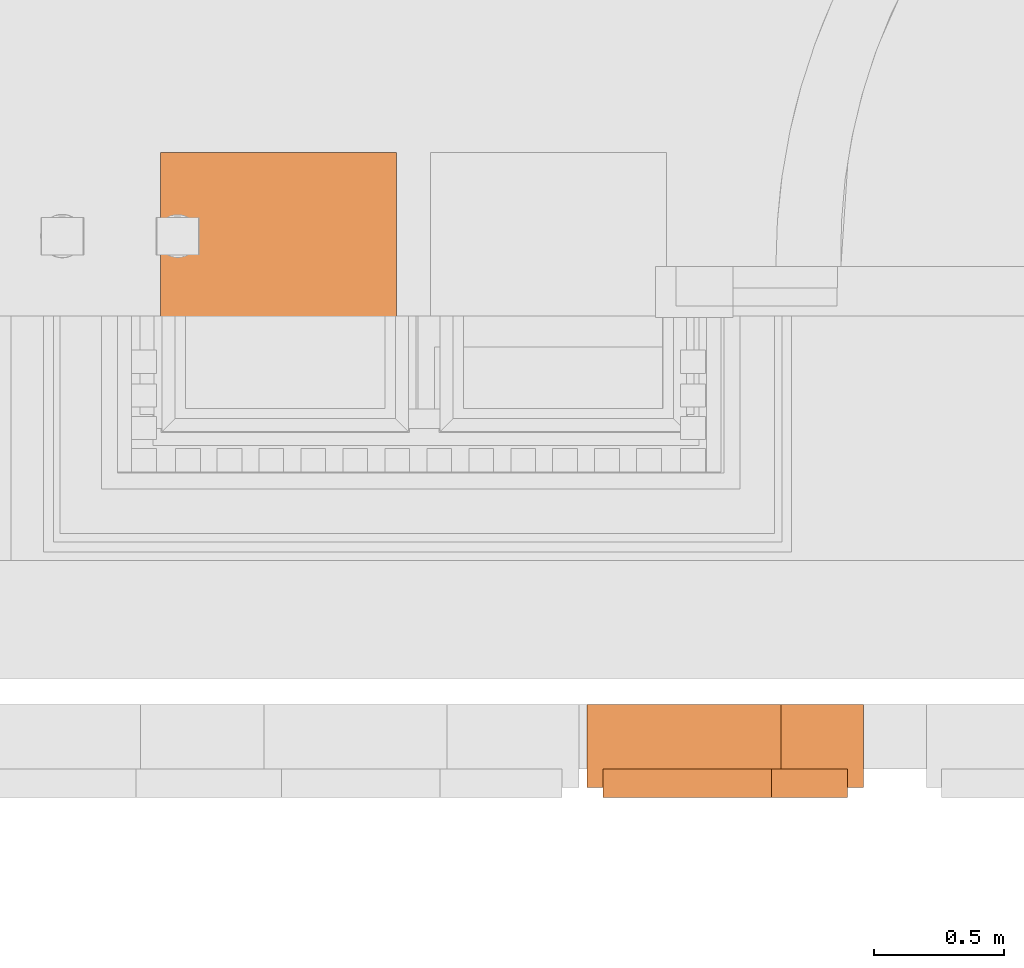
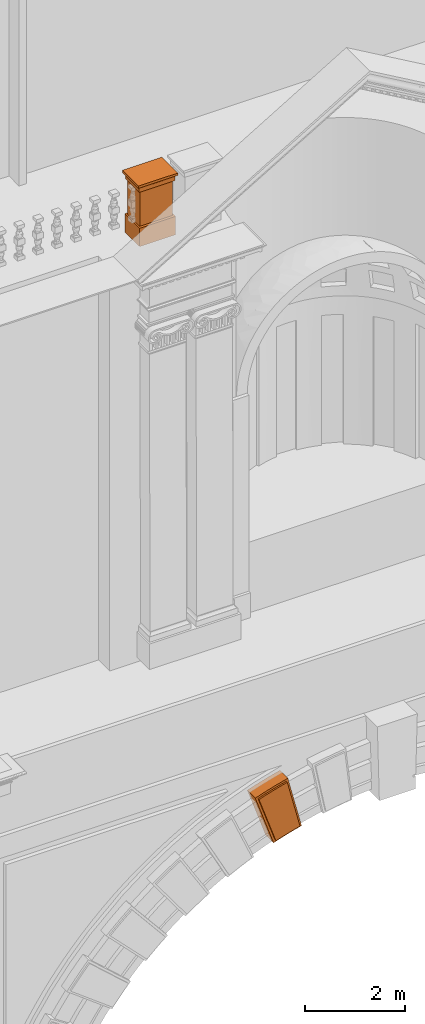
# One storey, part 7 of 44: 3 proxies.
"""IFC2X3 building model written with IfcOpenShell, lengths in metres."""

from ifc_helpers import new_model, entity, si_unit, converted_unit, derived_unit, direction, frame, frame_2d, origin, place, context, subcontext, project, spatial, polyline, circle_curve, parameter, trimmed, segment, composite_curve, outline, extrude, faceted_brep, source, transform, mapped, material, type_object, type_shapes, element, save


model = new_model("IFC2X3")

# Units and contexts
model_context = context("Model", 3, precision=1e-05, world=origin(), true_north=direction((6.12303176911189e-17, 1.0)))
body_context = subcontext(model_context, "Body", "Model", "MODEL_VIEW")
ifc_project = project(units=[si_unit("LENGTHUNIT", "METRE"), si_unit("AREAUNIT", "SQUARE_METRE"), si_unit("VOLUMEUNIT", "CUBIC_METRE"), converted_unit("PLANEANGLEUNIT", "DEGREE", entity("IfcRatioMeasure", 0.0174532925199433), si_unit("PLANEANGLEUNIT", "RADIAN"), dimensions=[0, 0, 0, 0, 0, 0, 0]), si_unit("MASSUNIT", "GRAM", prefix="KILO"), derived_unit("MASSDENSITYUNIT", [(si_unit("MASSUNIT", "GRAM", prefix="KILO"), 1), (si_unit("LENGTHUNIT", "METRE"), -3)]), si_unit("TIMEUNIT", "SECOND"), si_unit("FREQUENCYUNIT", "HERTZ"), si_unit("THERMODYNAMICTEMPERATUREUNIT", "DEGREE_CELSIUS"), derived_unit("THERMALTRANSMITTANCEUNIT", [(si_unit("MASSUNIT", "GRAM", prefix="KILO"), 1), (si_unit("THERMODYNAMICTEMPERATUREUNIT", "KELVIN"), -1), (si_unit("TIMEUNIT", "SECOND"), -3)]), derived_unit("VOLUMETRICFLOWRATEUNIT", [(si_unit("LENGTHUNIT", "METRE"), 3), (si_unit("TIMEUNIT", "SECOND"), -1)]), si_unit("ELECTRICCURRENTUNIT", "AMPERE"), si_unit("ELECTRICVOLTAGEUNIT", "VOLT"), si_unit("POWERUNIT", "WATT"), si_unit("FORCEUNIT", "NEWTON", prefix="KILO"), si_unit("ILLUMINANCEUNIT", "LUX"), si_unit("LUMINOUSFLUXUNIT", "LUMEN"), si_unit("LUMINOUSINTENSITYUNIT", "CANDELA"), derived_unit("USERDEFINED", [(si_unit("MASSUNIT", "GRAM", prefix="KILO"), -1), (si_unit("LENGTHUNIT", "METRE"), -2), (si_unit("TIMEUNIT", "SECOND"), 3), (si_unit("LUMINOUSFLUXUNIT", "LUMEN"), 1)]), derived_unit("LINEARVELOCITYUNIT", [(si_unit("LENGTHUNIT", "METRE"), 1), (si_unit("TIMEUNIT", "SECOND"), -1)]), si_unit("PRESSUREUNIT", "PASCAL"), derived_unit("USERDEFINED", [(si_unit("LENGTHUNIT", "METRE"), -2), (si_unit("MASSUNIT", "GRAM", prefix="KILO"), 1), (si_unit("TIMEUNIT", "SECOND"), -2)])], contexts=[model_context])

# Site, building, storey
site_placement = place(None, origin())
site = spatial("IfcSite", under=ifc_project, at=site_placement, Name="Default", CompositionType="ELEMENT")
building_placement = place(site_placement, origin())
building = spatial("IfcBuilding", under=site, at=building_placement, CompositionType="ELEMENT")
storey_placement = place(building_placement, origin())
storey = spatial("IfcBuildingStorey", under=building, at=storey_placement, Name="Livello 1", CompositionType="ELEMENT", Elevation=0.0)

# Proxies
ifc_material = material(Name="Piperno")
building_element_proxy_type = type_object("IfcBuildingElementProxyType", Name="Piedistallo_balaustra terrazzo", PredefinedType="NOTDEFINED", material=ifc_material)
shared_shape = source(origin(), body_context, "Body", "Brep", [
    faceted_brep([(0.046908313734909, 0.593560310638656, 1.29866715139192), (0.046908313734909, 0.593560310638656, 1.3744703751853), (0.456758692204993, 0.593560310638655, 1.3744703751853), (0.866608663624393, 0.593560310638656, 1.3744703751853), (0.866608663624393, 0.593560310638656, 1.29866715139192), (0.0819082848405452, 0.558560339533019, 1.29871212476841), (0.831608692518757, 0.558560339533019, 1.29871212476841), (0.0819082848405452, 0.558560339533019, 1.44170839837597), (0.831608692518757, 0.558560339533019, 1.44170839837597), (0.0453685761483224, 0.595100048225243, 1.39169607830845), (0.547469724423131, 0.594325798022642, 1.38754596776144), (0.456758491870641, 0.617051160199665, 1.4288318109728), (0.501016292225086, 0.605457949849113, 1.41575397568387), (0.0299184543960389, 0.610550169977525, 1.42233581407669), (0.896533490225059, 0.623485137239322, 1.43381545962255), (0.883598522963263, 0.610550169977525, 1.42233581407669), (0.0395835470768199, 0.600885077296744, 1.40799420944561), (0.456758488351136, 0.597554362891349, 1.40023980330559), (0.477394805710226, 0.627932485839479, 1.43661435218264), (0.016983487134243, 0.623485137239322, 1.43381545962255), (0.622237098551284, 0.638873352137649, 1.44170839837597), (0.911921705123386, 0.638873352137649, 1.44170839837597), (0.332552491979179, 0.638873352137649, 1.44170839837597), (0.0015952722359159, 0.638873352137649, 1.44170839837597), (0.873933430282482, 0.600885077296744, 1.40799420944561), (0.86814840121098, 0.595100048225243, 1.39169607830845), (0.866608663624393, 0.0469083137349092, 1.3744703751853), (0.866608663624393, 0.0469083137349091, 1.29866715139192), (0.831608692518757, 0.0819082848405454, 1.29871212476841), (0.831608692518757, 0.0819082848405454, 1.44170839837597), (0.889974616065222, 0.32023431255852, 1.42872239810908), (0.90037284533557, 0.325542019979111, 1.43625922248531), (0.911921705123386, 0.291279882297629, 1.44170839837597), (0.911921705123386, 0.00159527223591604, 1.44170839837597), (0.883598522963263, 0.02991845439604, 1.42233581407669), (0.896533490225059, 0.0169834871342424, 1.43381545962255), (0.873933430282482, 0.0395835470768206, 1.40799420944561), (0.86814840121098, 0.0453685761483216, 1.39169607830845), (0.456758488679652, 0.0469083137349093, 1.3744703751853), (0.046908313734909, 0.0469083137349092, 1.3744703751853), (0.046908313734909, 0.0469083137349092, 1.29866715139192), (0.0819082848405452, 0.0819082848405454, 1.29871212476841), (0.0819082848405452, 0.0819082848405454, 1.44170839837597), (0.366047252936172, 0.0461428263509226, 1.38754596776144), (0.456758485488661, 0.0234174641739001, 1.4288318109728), (0.412500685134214, 0.0350106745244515, 1.41575397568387), (0.016983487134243, 0.0169834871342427, 1.43381545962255), (0.0299184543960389, 0.02991845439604, 1.42233581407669), (0.456758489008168, 0.0429142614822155, 1.40023980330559), (0.436122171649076, 0.0125361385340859, 1.43661435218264), (0.291279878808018, 0.00159527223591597, 1.44170839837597), (0.0015952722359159, 0.00159527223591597, 1.44170839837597), (0.580964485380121, 0.00159527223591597, 1.44170839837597), (0.0395835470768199, 0.0395835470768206, 1.40799420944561), (0.0453685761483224, 0.0453685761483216, 1.39169607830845), (0.0015952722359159, 0.349188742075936, 1.44170839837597), (0.0235423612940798, 0.320234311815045, 1.42872239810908), (0.0131441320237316, 0.314926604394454, 1.43625922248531)], [[[0, 1, 2, 3, 4]], [[5, 0, 4, 6]], [[7, 5, 6, 8]], [[9, 10, 2]], [[11, 12, 13]], [[14, 15, 11]], [[16, 12, 17]], [[12, 11, 15]], [[18, 11, 19]], [[20, 21, 14]], [[22, 19, 23]], [[12, 15, 24]], [[16, 13, 12]], [[17, 10, 9]], [[25, 3, 10]], [[9, 2, 1]], [[17, 9, 16]], [[14, 18, 20]], [[25, 17, 24]], [[17, 25, 10]], [[11, 13, 19]], [[22, 18, 19]], [[24, 17, 12]], [[11, 18, 14]], [[22, 20, 18]], [[2, 10, 3]], [[4, 3, 26, 27]], [[6, 4, 27, 28]], [[8, 6, 28, 29]], [[30, 15, 14]], [[31, 21, 32, 33]], [[14, 31, 30]], [[34, 30, 35]], [[34, 36, 24, 15]], [[21, 31, 14]], [[30, 31, 35]], [[37, 26, 3, 25]], [[36, 37, 25, 24]], [[15, 30, 34]], [[31, 33, 35]], [[27, 26, 38, 39, 40]], [[28, 27, 40, 41]], [[29, 28, 41, 42]], [[37, 43, 38]], [[44, 45, 34]], [[46, 47, 44]], [[36, 45, 48]], [[45, 44, 47]], [[49, 44, 35]], [[50, 51, 46]], [[52, 35, 33]], [[45, 47, 53]], [[36, 34, 45]], [[48, 43, 37]], [[54, 39, 43]], [[37, 38, 26]], [[48, 37, 36]], [[46, 49, 50]], [[54, 48, 53]], [[48, 54, 43]], [[44, 34, 35]], [[52, 49, 35]], [[53, 48, 45]], [[44, 49, 46]], [[52, 50, 49]], [[38, 43, 39]], [[40, 39, 1, 0]], [[41, 40, 0, 5]], [[42, 41, 5, 7]], [[33, 29, 42]], [[29, 33, 8]], [[8, 33, 32]], [[42, 52, 33]], [[8, 32, 21]], [[8, 21, 7]], [[7, 21, 20]], [[7, 20, 22]], [[7, 22, 23]], [[7, 23, 55]], [[7, 55, 51]], [[51, 42, 7]], [[42, 51, 50]], [[42, 50, 52]], [[56, 47, 46]], [[57, 51, 55, 23]], [[46, 57, 56]], [[13, 56, 19]], [[13, 16, 53, 47]], [[51, 57, 46]], [[56, 57, 19]], [[9, 1, 39, 54]], [[16, 9, 54, 53]], [[47, 56, 13]], [[57, 23, 19]]]),
    faceted_brep([(0.911921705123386, 0.00159527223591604, 1.44170839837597), (0.911921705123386, 0.00159527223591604, 1.49643867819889), (0.0015952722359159, 0.00159527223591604, 1.49643867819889), (0.0015952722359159, 0.00159527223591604, 1.44170839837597), (0.911921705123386, 0.638873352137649, 1.44170839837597), (0.0015952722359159, 0.638873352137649, 1.44170839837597), (0.0015952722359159, 0.638873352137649, 1.49643867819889), (0.911921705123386, 0.638873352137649, 1.49643867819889)], [[[0, 1, 2, 3]], [[4, 5, 6, 7]], [[1, 0, 4, 7]], [[2, 1, 7, 6]], [[3, 2, 6, 5]], [[0, 3, 5, 4]]]),
    faceted_brep([(0.870792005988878, 0.01875005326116, 0.0), (0.870792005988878, 0.01875005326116, 0.44582479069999), (0.0423439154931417, 0.01875005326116, 0.44582479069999), (0.0423439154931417, 0.01875005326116, 0.0), (0.870792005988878, 0.609374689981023, 0.0), (0.0423439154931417, 0.609374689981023, 0.0), (0.0423439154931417, 0.609374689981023, 0.44582479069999), (0.870792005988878, 0.609374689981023, 0.44582479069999)], [[[0, 1, 2, 3]], [[4, 5, 6, 7]], [[1, 0, 4, 7]], [[2, 1, 7, 6]], [[3, 2, 6, 5]], [[0, 3, 5, 4]]]),
    faceted_brep([(0.0794676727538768, 0.079467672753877, 0.44582479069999), (0.834049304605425, 0.079467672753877, 0.445824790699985), (0.834049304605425, 0.079467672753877, 1.29967859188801), (0.0794676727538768, 0.079467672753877, 1.29967859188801), (0.0794676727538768, 0.561000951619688, 0.44582479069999), (0.0794676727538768, 0.561000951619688, 1.29967859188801), (0.834049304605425, 0.561000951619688, 1.29967859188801), (0.834049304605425, 0.561000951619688, 0.445824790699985)], [[[0, 1, 2, 3]], [[4, 5, 6, 7]], [[2, 1, 7, 6]], [[3, 2, 6, 5]], [[0, 3, 5, 4]], [[1, 0, 4, 7]]]),
])
type_shapes(building_element_proxy_type, [shared_shape])
proxy_1_placement = place(storey_placement, frame((-4.86408539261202, 1.25399804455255, 23.294418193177)))
element("IfcBuildingElementProxy", 1, at=proxy_1_placement, inside=storey, type_object=building_element_proxy_type, material=ifc_material, Name="Piedistallo_balaustra terrazzo:Piedistallo_balaustra terrazzo", ObjectType="Piedistallo_balaustra terrazzo", context=body_context, shape_type="MappedRepresentation", body=[
    mapped(shared_shape, transform((0.0, 0.0, 0.0), scale=1.0)),
])
proxy_2_placement = place(storey_placement, frame((-3.22080492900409, -0.554467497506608, 9.19858808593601)))
element("IfcBuildingElementProxy", 2, at=proxy_2_placement, inside=storey, material=ifc_material, Name="Stratigrafia", context=body_context, shape_type="SweptSolid", body=[
    extrude(outline(composite_curve([segment(polyline([(-0.667284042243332, -0.362933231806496), (0.636902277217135, -0.362933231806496)]), True, "CONTINUOUS"), segment(trimmed(circle_curve(frame_2d((8.67102557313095, -0.362933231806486), x_axis=(-0.112852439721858, 0.993611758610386)), 8.03412329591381), [parameter(78.7266972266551)], [parameter(83.5202274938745)], True, "PARAMETER"), False, "CONTINUOUS"), segment(polyline([(0.665003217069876, 0.308440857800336), (-0.634621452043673, 0.417425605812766)]), True, "CONTINUOUS"), segment(trimmed(circle_curve(frame_2d((8.67102557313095, -0.362933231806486), x_axis=(-0.112852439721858, 0.993611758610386)), 9.33830961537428), [parameter(78.7266972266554)], [parameter(83.5202274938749)], True, "PARAMETER"), True, "CONTINUOUS")], self_intersect=False)), frame((0.561065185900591, 0.0, 0.721708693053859), z_axis=(0.0, 1.0, 0.0), x_axis=(0.243647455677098, 0.0, -0.96986386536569)), (0.0, 0.0, 1.0), 0.32),
])
proxy_3_placement = place(storey_placement, frame((-3.157308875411, -0.594467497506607, 9.26193945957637)))
element("IfcBuildingElementProxy", 3, at=proxy_3_placement, inside=storey, material=ifc_material, Name="Stratigrafia", context=body_context, shape_type="SweptSolid", body=[
    extrude(outline(composite_curve([segment(trimmed(circle_curve(frame_2d((8.66960657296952, 0.362020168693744), x_axis=(-0.112852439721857, -0.993611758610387)), 9.28496378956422), [parameter(276.782159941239)], [parameter(280.96038991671)], True, "PARAMETER"), True, "CONTINUOUS"), segment(polyline([(-0.586980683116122, -0.363338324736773), (0.613152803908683, -0.262696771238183)]), True, "CONTINUOUS"), segment(trimmed(circle_curve(frame_2d((8.67302445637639, 0.363017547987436), x_axis=(-0.112852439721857, -0.993611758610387)), 8.08412329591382), [parameter(276.834147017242)], [parameter(280.918928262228)], True, "PARAMETER"), False, "CONTINUOUS"), segment(polyline([(0.589055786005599, 0.313017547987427), (-0.615227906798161, 0.313017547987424)]), True, "CONTINUOUS")], self_intersect=False)), frame((0.497000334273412, 0.0, 0.660275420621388), z_axis=(0.0, -1.0, 0.0), x_axis=(0.243647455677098, 0.0, -0.96986386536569)), (0.0, 0.0, -1.0), 0.11),
])

save(model, "model.ifc")
